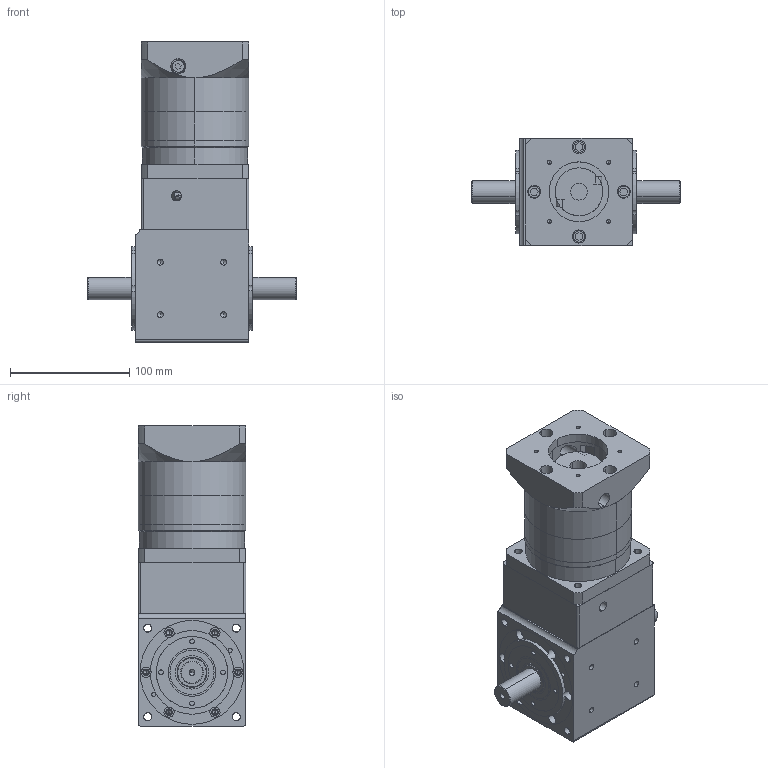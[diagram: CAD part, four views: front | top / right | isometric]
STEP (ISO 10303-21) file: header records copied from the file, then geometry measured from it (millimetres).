
FILE_DESCRIPTION (( 'STEP AP203' ), '1' );
FILE_NAME ('×°ÅäÌå8.STEP', '2025-04-24T08:18:54', ( 'Microsoft' ), ( 'JSSM8' ), 'SwSTEP 2.0', 'SolidWorks 2015', '' );
FILE_SCHEMA (( 'CONFIG_CONTROL_DESIGN' ));
Length unit declared in the file: millimetre
Products named in the file (17): 25-40-7蚐猾; 蚾饜极8; PVFD090標杶; tapered roller bearings gb_Rolling bearings 32005 GB 297-94; PVFD090-L2-()-P()-14-50-70-M5; deep groove ball bearings gb_Rolling bearings 6005 GB 276-94; PVFH090-L1-()-P()-19-70-90-M5邧粣_1; PVFDo9o眊极; PVFH090-L1-()-P()-19-70-90-M5邧粣; PVFD090蹟譫; PVFD090綴楊擘(80-100); PVFD090͹̨; PVFD090输入轴; PLF090单级三维图400W; 楊擘; PVFH090-L1-()-P()-19-80-100-M6邧粣; ZK090怀堤粣
Assembly tree (20 placements, depth 5):
  蚾饜极8
    PVFH090-L1-()-P()-19-80-100-M6邧粣
      PVFH090-L1-()-P()-19-70-90-M5邧粣
        PVFH090-L1-()-P()-19-70-90-M5邧粣_1
          PVFDo9o眊极
          PVFD090͹̨  x2
          deep groove ball bearings gb_Rolling bearings 6005 GB 276-94  x2
          tapered roller bearings gb_Rolling bearings 32005 GB 297-94
          PVFD090標杶
          PVFD090蹟譫  x2
          PVFD090输入轴
          ZK090怀堤粣
          25-40-7蚐猾  x2
      楊擘
        PVFD090綴楊擘(80-100)
    PVFD090-L2-()-P()-14-50-70-M5
      PLF090单级三维图400W
Bounding box: 175 x 90 x 251.5 mm (x, y, z)
Volume: 1576791.8 mm3; surface area: 340773.2 mm2
Topology: 17 solids, 17 shells, 1319 faces, 4048 edges, 2583 vertices
Faces by surface type: cylinder 499, plane 340, torus 228, cone 176, sphere 76
Entity records: 44450 total; most frequent: CARTESIAN_POINT 13931, ORIENTED_EDGE 6172, DIRECTION 5970, EDGE_CURVE 3086, AXIS2_PLACEMENT_3D 2505, VERTEX_POINT 2007, CIRCLE 1380, EDGE_LOOP 1331
